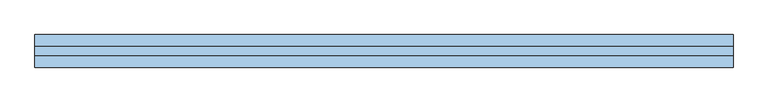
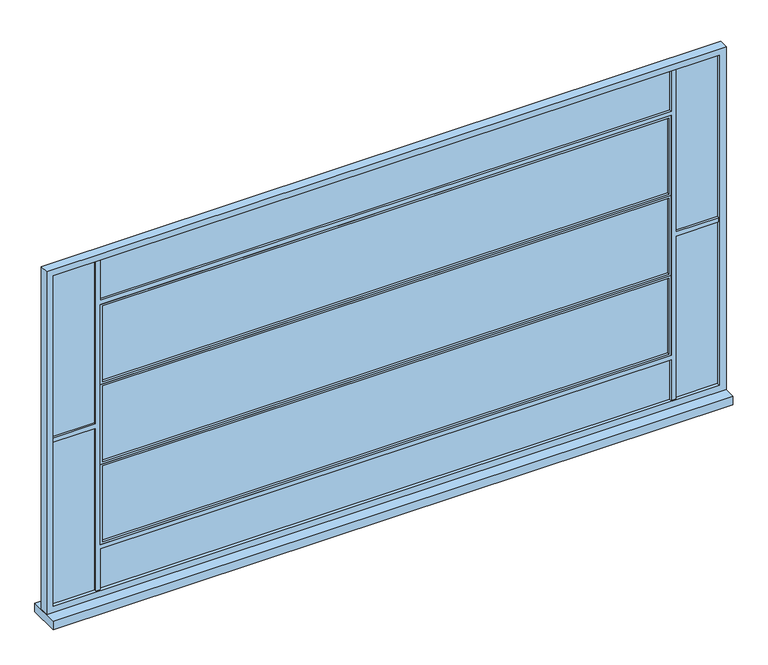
"""IFC4 building model written with IfcOpenShell, lengths in millimetres: window geometry, JANELA BASCULANTE PRÁTICA DE REVIT : JANELA AÇO E VIDRO BASCULANTE 300X150."""

from ifc_helpers import new_model, si_unit, frame, origin, place, context, project, spatial, polyline, outline, extrude, source, transform, mapped, element, save


def window_0c15b8cc(model_context):
    return source(origin(), model_context, "Body", "SweptSolid", [
        extrude(outline(polyline([(1250.0, -5.0), (-1250.0, -5.0), (-1250.0, 5.0), (1250.0, 5.0), (1250.0, -5.0)])), frame((0.0, 0.0, 1796.6666667), z_axis=(0.0, 0.0, 1.0), x_axis=(1.0, 0.0, 0.0)), (0.0, 0.0, 1.0), 353.3333333),
        extrude(outline(polyline([(2160.0, -1260.0), (1786.6666667, -1260.0), (1786.6666667, 1260.0), (2160.0, 1260.0), (2160.0, -1260.0)]), holes=[polyline([(2150.0, -1250.0), (2150.0, 1250.0), (1796.6666667, 1250.0), (1796.6666667, -1250.0), (2150.0, -1250.0)])]), frame((0.0, -15.0, 0.0), z_axis=(0.0, 1.0, 0.0), x_axis=(0.0, 0.0, 1.0)), (0.0, 0.0, 1.0), 30.0),
        extrude(outline(polyline([(1250.0, -5.0), (-1250.0, -5.0), (-1250.0, 5.0), (1250.0, 5.0), (1250.0, -5.0)])), frame((0.0, 0.0, 1423.3333333), z_axis=(0.0, 0.0, 1.0), x_axis=(1.0, 0.0, 0.0)), (0.0, 0.0, 1.0), 353.3333333),
        extrude(outline(polyline([(1786.6666667, -1260.0), (1413.3333333, -1260.0), (1413.3333333, 1260.0), (1786.6666667, 1260.0), (1786.6666667, -1260.0)]), holes=[polyline([(1776.6666667, -1250.0), (1776.6666667, 1250.0), (1423.3333333, 1250.0), (1423.3333333, -1250.0), (1776.6666667, -1250.0)])]), frame((0.0, -15.0, 0.0), z_axis=(0.0, 1.0, 0.0), x_axis=(0.0, 0.0, 1.0)), (0.0, 0.0, 1.0), 30.0),
        extrude(outline(polyline([(1250.0, -5.0), (-1250.0, -5.0), (-1250.0, 5.0), (1250.0, 5.0), (1250.0, -5.0)])), frame((0.0, 0.0, 1050.0), z_axis=(0.0, 0.0, 1.0), x_axis=(1.0, 0.0, 0.0)), (0.0, 0.0, 1.0), 353.3333333),
        extrude(outline(polyline([(1413.3333333, -1260.0), (1040.0, -1260.0), (1040.0, 1260.0), (1413.3333333, 1260.0), (1413.3333333, -1260.0)]), holes=[polyline([(1403.3333333, -1250.0), (1403.3333333, 1250.0), (1050.0, 1250.0), (1050.0, -1250.0), (1403.3333333, -1250.0)])]), frame((0.0, -15.0, 0.0), z_axis=(0.0, 1.0, 0.0), x_axis=(0.0, 0.0, 1.0)), (0.0, 0.0, 1.0), 30.0),
        extrude(outline(polyline([(1500.0, 70.0), (1500.0, -70.0), (-1500.0, -70.0), (-1500.0, 70.0), (1500.0, 70.0)])), frame((0.0, 0.0, 760.0), z_axis=(0.0, 0.0, 1.0), x_axis=(1.0, 0.0, 0.0)), (0.0, 0.0, 1.0), 40.0),
        extrude(outline(polyline([(1260.0, -5.0), (-1260.0, -5.0), (-1260.0, 5.0), (1260.0, 5.0), (1260.0, -5.0)])), frame((0.0, 0.0, 830.0), z_axis=(0.0, 0.0, 1.0), x_axis=(1.0, 0.0, 0.0)), (0.0, 0.0, 1.0), 190.0),
        extrude(outline(polyline([(-1280.0, -5.0), (-1470.0, -5.0), (-1470.0, 5.0), (-1280.0, 5.0), (-1280.0, -5.0)])), frame((0.0, 0.0, 1610.0), z_axis=(0.0, 0.0, 1.0), x_axis=(1.0, 0.0, 0.0)), (0.0, 0.0, 1.0), 760.0),
        extrude(outline(polyline([(-1280.0, -5.0), (-1470.0, -5.0), (-1470.0, 5.0), (-1280.0, 5.0), (-1280.0, -5.0)])), frame((0.0, 0.0, 830.0), z_axis=(0.0, 0.0, 1.0), x_axis=(1.0, 0.0, 0.0)), (0.0, 0.0, 1.0), 760.0),
        extrude(outline(polyline([(1260.0, -5.0), (-1260.0, -5.0), (-1260.0, 5.0), (1260.0, 5.0), (1260.0, -5.0)])), frame((0.0, 0.0, 2180.0), z_axis=(0.0, 0.0, 1.0), x_axis=(1.0, 0.0, 0.0)), (0.0, 0.0, 1.0), 190.0),
        extrude(outline(polyline([(1470.0, -5.0), (1280.0, -5.0), (1280.0, 5.0), (1470.0, 5.0), (1470.0, -5.0)])), frame((0.0, 0.0, 830.0), z_axis=(0.0, 0.0, 1.0), x_axis=(1.0, 0.0, 0.0)), (0.0, 0.0, 1.0), 760.0),
        extrude(outline(polyline([(1470.0, -5.0), (1280.0, -5.0), (1280.0, 5.0), (1470.0, 5.0), (1470.0, -5.0)])), frame((0.0, 0.0, 1610.0), z_axis=(0.0, 0.0, 1.0), x_axis=(1.0, 0.0, 0.0)), (0.0, 0.0, 1.0), 760.0),
        extrude(outline(polyline([(2370.0, -1260.0), (2370.0, -1280.0), (1610.0, -1280.0), (1610.0, -1470.0), (1590.0, -1470.0), (1590.0, -1280.0), (830.0, -1280.0), (830.0, -1260.0), (1020.0, -1260.0), (1020.0, 1260.0), (830.0, 1260.0), (830.0, 1280.0), (1590.0, 1280.0), (1590.0, 1470.0), (1610.0, 1470.0), (1610.0, 1280.0), (2370.0, 1280.0), (2370.0, 1260.0), (2180.0, 1260.0), (2180.0, -1260.0), (2370.0, -1260.0)]), holes=[polyline([(1040.0, 1260.0), (1040.0, -1260.0), (2160.0, -1260.0), (2160.0, 1260.0), (1040.0, 1260.0)])]), frame((0.0, -15.0, 0.0), z_axis=(0.0, 1.0, 0.0), x_axis=(0.0, 0.0, 1.0)), (0.0, 0.0, 1.0), 30.0),
        extrude(outline(polyline([(2400.0, 1500.0), (2400.0, -1500.0), (800.0, -1500.0), (800.0, 1500.0), (2400.0, 1500.0)]), holes=[polyline([(2370.0, 1470.0), (830.0, 1470.0), (830.0, -1470.0), (2370.0, -1470.0), (2370.0, 1470.0)])]), frame((0.0, -20.0, 0.0), z_axis=(0.0, 1.0, 0.0), x_axis=(0.0, 0.0, 1.0)), (0.0, 0.0, 1.0), 40.0),
    ])


if __name__ == "__main__":
    model = new_model("IFC4")
    model_context = context("Model", 3, world=origin())
    ifc_project = project(units=[si_unit("LENGTHUNIT", "METRE", prefix="MILLI")], contexts=[model_context])
    site = spatial("IfcSite", under=ifc_project)
    building = spatial("IfcBuilding", under=site)
    placement = place(None, origin())
    window_shape = window_0c15b8cc(model_context)
    element("IfcWindow", 1, ObjectType="JANELA BASCULANTE PRÁTICA DE REVIT : JANELA AÇO E VIDRO BASCULANTE 300X150", at=placement, inside=building, context=model_context, shape_type="MappedRepresentation", body=[
        mapped(window_shape, transform((0.0, 0.0, 0.0), x_axis=(1.0, 0.0, 0.0), y_axis=(0.0, 1.0, 0.0), z_axis=(0.0, 0.0, 1.0))),
    ])
    save(model, "model.ifc")
